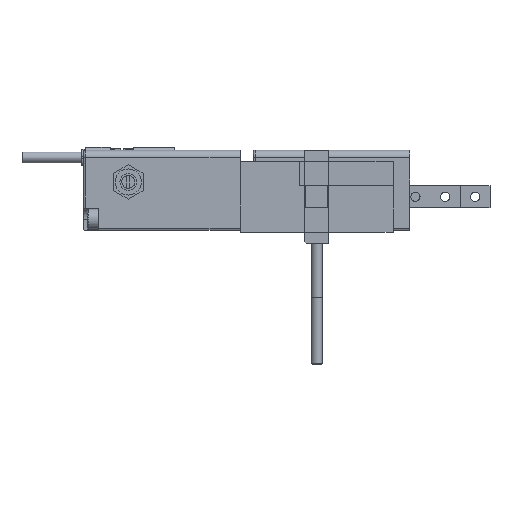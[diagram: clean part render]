
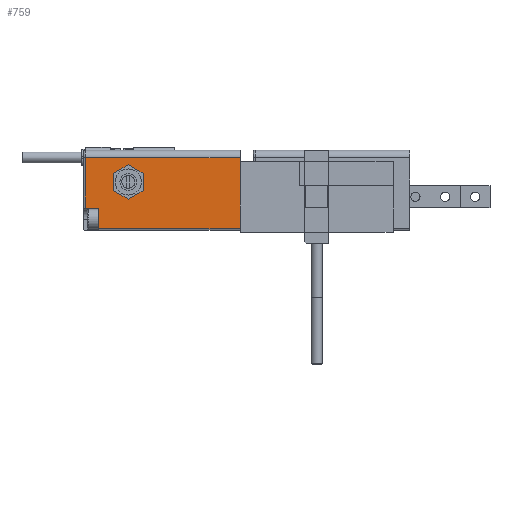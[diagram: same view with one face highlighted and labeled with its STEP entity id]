
A CAD part, left-side view. The second image highlights one B-rep face of the part: STEP entity #759.
In plain terms, the highlighted planar face has unit normal (-1, 0, 0).
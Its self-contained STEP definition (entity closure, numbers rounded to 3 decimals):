
#759 = ADVANCED_FACE( '', ( #1890, #1891 ), #1892, .F. );
#1890 = FACE_BOUND( '', #3452, .T. );
#1891 = FACE_OUTER_BOUND( '', #3453, .T. );
#1892 = PLANE( '', #3454 );
#3452 = EDGE_LOOP( '', ( #5611 ) );
#3453 = EDGE_LOOP( '', ( #5612, #5613, #5614, #5615, #5616, #5617 ) );
#3454 = AXIS2_PLACEMENT_3D( '', #5618, #5619, #5620 );
#5611 = ORIENTED_EDGE( '', *, *, #8464, .T. );
#5612 = ORIENTED_EDGE( '', *, *, #8886, .F. );
#5613 = ORIENTED_EDGE( '', *, *, #8724, .T. );
#5614 = ORIENTED_EDGE( '', *, *, #8887, .T. );
#5615 = ORIENTED_EDGE( '', *, *, #8888, .F. );
#5616 = ORIENTED_EDGE( '', *, *, #8889, .T. );
#5617 = ORIENTED_EDGE( '', *, *, #8890, .T. );
#5618 = CARTESIAN_POINT( '', ( -18., -25., 12.5 ) );
#5619 = DIRECTION( '', ( 1., 0., 0. ) );
#5620 = DIRECTION( '', ( 0., 0., -1. ) );
#8464 = EDGE_CURVE( '', #10042, #10042, #10043, .T. );
#8724 = EDGE_CURVE( '', #10497, #10495, #10498, .T. );
#8886 = EDGE_CURVE( '', #10497, #10748, #10749, .T. );
#8887 = EDGE_CURVE( '', #10495, #10750, #10751, .F. );
#8888 = EDGE_CURVE( '', #10752, #10750, #10753, .T. );
#8889 = EDGE_CURVE( '', #10752, #9897, #10754, .T. );
#8890 = EDGE_CURVE( '', #9897, #10748, #10755, .T. );
#9897 = VERTEX_POINT( '', #12119 );
#10042 = VERTEX_POINT( '', #12396 );
#10043 = CIRCLE( '', #12397, 3. );
#10495 = VERTEX_POINT( '', #13058 );
#10497 = VERTEX_POINT( '', #13060 );
#10498 = LINE( '', #13061, #13062 );
#10748 = VERTEX_POINT( '', #13575 );
#10749 = LINE( '', #13576, #13577 );
#10750 = VERTEX_POINT( '', #13578 );
#10751 = LINE( '', #13579, #13580 );
#10752 = VERTEX_POINT( '', #13581 );
#10753 = LINE( '', #13582, #13583 );
#10754 = LINE( '', #13584, #13585 );
#10755 = LINE( '', #13586, #13587 );
#12119 = CARTESIAN_POINT( '', ( -18., 16.5, 10.5 ) );
#12396 = CARTESIAN_POINT( '', ( -18., 5., 7. ) );
#12397 = AXIS2_PLACEMENT_3D( '', #15685, #15686, #15687 );
#13058 = CARTESIAN_POINT( '', ( -18., 13., -8.5 ) );
#13060 = CARTESIAN_POINT( '', ( -18., 13., -3. ) );
#13061 = CARTESIAN_POINT( '', ( -18., 13., -3. ) );
#13062 = VECTOR( '', #16042, 1000. );
#13575 = CARTESIAN_POINT( '', ( -18., 16.5, -3. ) );
#13576 = CARTESIAN_POINT( '', ( -18., 13., -3. ) );
#13577 = VECTOR( '', #16207, 1000. );
#13578 = CARTESIAN_POINT( '', ( -18., -25., -8.5 ) );
#13579 = CARTESIAN_POINT( '', ( -18., -25., -8.5 ) );
#13580 = VECTOR( '', #16208, 1000. );
#13581 = CARTESIAN_POINT( '', ( -18., -25., 10.5 ) );
#13582 = CARTESIAN_POINT( '', ( -18., -25., 12.5 ) );
#13583 = VECTOR( '', #16209, 1000. );
#13584 = CARTESIAN_POINT( '', ( -18., -25., 10.5 ) );
#13585 = VECTOR( '', #16210, 1000. );
#13586 = CARTESIAN_POINT( '', ( -18., 16.5, 12.5 ) );
#13587 = VECTOR( '', #16211, 1000. );
#15685 = CARTESIAN_POINT( '', ( -18., 5., 4. ) );
#15686 = DIRECTION( '', ( 1., 0., 0. ) );
#15687 = DIRECTION( '', ( 0., 0., 1. ) );
#16042 = DIRECTION( '', ( 0., 0., -1. ) );
#16207 = DIRECTION( '', ( 0., 1., 0. ) );
#16208 = DIRECTION( '', ( 0., 1., 0. ) );
#16209 = DIRECTION( '', ( 0., 0., -1. ) );
#16210 = DIRECTION( '', ( 0., 1., 0. ) );
#16211 = DIRECTION( '', ( 0., 0., -1. ) );
